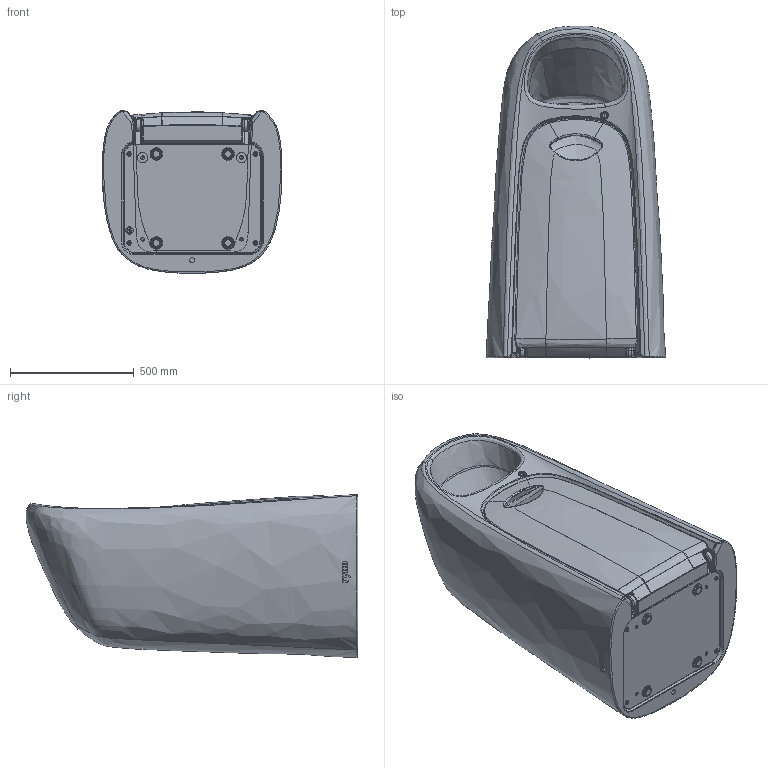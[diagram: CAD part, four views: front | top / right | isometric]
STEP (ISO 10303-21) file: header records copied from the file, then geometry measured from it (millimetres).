
FILE_DESCRIPTION (( 'STEP AP214' ), '1' );
FILE_NAME ('1147-T1-S1_RevH_SafewasteXL.STEP', '2026-07-07T10:30:06', ( '' ), ( '' ), 'SwSTEP 2.0', 'SolidWorks 2026', '' );
FILE_SCHEMA (( 'AUTOMOTIVE_DESIGN' ));
Length unit declared in the file: millimetre
Products named in the file (26): Pattern.step; OUTTER.step; socket button head screw_iso_ISO 7380 - M6 x 12 - 12N; plain washer large grade ac_iso_Washer ISO 7093 - 6; BZL50WVGRBJM828; 1147-T1-C3; Threaded Insert M6; 1147-T1-C2; 1147-T1-C1; METAL.step; 1147-T1-C6; BZL50WVGRBJM828.step; 1147-T1-C4; THERMOPLASTIC RUBBER TYRE.step; Pattern-1.step; PCPD1617 Ryno Threaded Insert M10; BEARING608-ZB.step; Euro-Locks Camlock (37.7mm Panel-To-Tongue) .step; POLYPROPYLENE RIM.step; socket button head screw_iso_ISO 7380 - M10 x 20 - 20N; INSIDE.step; socket button head screw_iso_ISO 7380 - M8 x 40 - 40N; 1147-T1-C5; BEARING608-ZB-1.step; 1147-T1-S1_RevH_SafewasteXL; Component4.step
Assembly tree (50 placements, depth 6):
  1147-T1-S1_RevH_SafewasteXL
    1147-T1-C1
    1147-T1-C2
    1147-T1-C3
    1147-T1-C4
    1147-T1-C5
    1147-T1-C6
    BZL50WVGRBJM828  x2
      BZL50WVGRBJM828.step
        BEARING608-ZB.step
          Pattern.step
            Component4.step  x7
          METAL.step
          INSIDE.step
          OUTTER.step
        BEARING608-ZB-1.step
          Pattern-1.step
            Component4.step  x7
          METAL.step
          INSIDE.step
          OUTTER.step
        THERMOPLASTIC RUBBER TYRE.step
        POLYPROPYLENE RIM.step
    socket button head screw_iso_ISO 7380 - M8 x 40 - 40N  x2
    Euro-Locks Camlock (37.7mm Panel-To-Tongue) .step
    socket button head screw_iso_ISO 7380 - M10 x 20 - 20N  x4
    plain washer large grade ac_iso_Washer ISO 7093 - 6  x2
    socket button head screw_iso_ISO 7380 - M6 x 12 - 12N  x2
    PCPD1617 Ryno Threaded Insert M10  x2
    Threaded Insert M6  x2
Bounding box: 728.3 x 1342.75 x 659.99 mm (x, y, z)
Volume: 206086404.9 mm3; surface area: 10267791.6 mm2
Topology: 69 solids, 69 shells, 2198 faces, 5539 edges, 3473 vertices
Faces by surface type: cylinder 718, bspline 551, plane 507, torus 210, cone 114, sphere 98
Entity records: 119391 total; most frequent: CARTESIAN_POINT 84523, ORIENTED_EDGE 8116, DIRECTION 5488, EDGE_CURVE 4058, VERTEX_POINT 2556, AXIS2_PLACEMENT_3D 2103, EDGE_LOOP 1734, ADVANCED_FACE 1613
